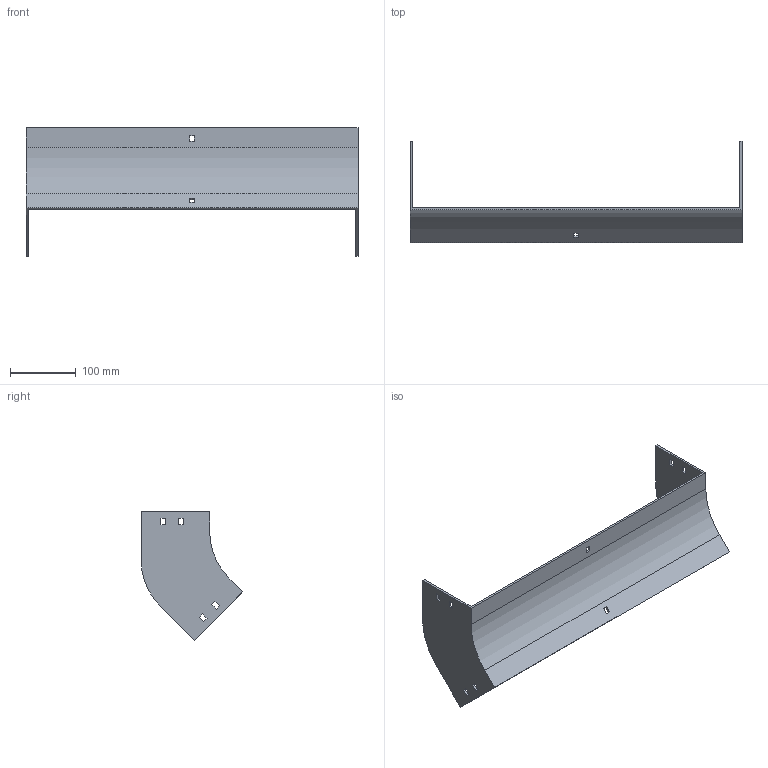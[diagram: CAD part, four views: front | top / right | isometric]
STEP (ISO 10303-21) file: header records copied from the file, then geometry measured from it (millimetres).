
FILE_DESCRIPTION (( 'STEP AP214' ), '1' );
FILE_NAME ('34F1D500.step', '2025-02-21T12:50:33', ( '' ), ( '' ), 'SwSTEP 2.0', 'SolidWorks 2023', '' );
FILE_SCHEMA (( 'AUTOMOTIVE_DESIGN' ));
Length unit declared in the file: millimetre
Products named in the file (1): 34F1D500
Bounding box: 504 x 154.5 x 195.46 mm (x, y, z)
Volume: 376361.8 mm3; surface area: 222731.1 mm2
Topology: 1 solids, 1 shells, 58 faces, 168 edges, 112 vertices
Faces by surface type: plane 54, cylinder 4
Entity records: 1943 total; most frequent: CARTESIAN_POINT 339, ORIENTED_EDGE 336, DIRECTION 294, EDGE_CURVE 168, LINE 160, VECTOR 160, VERTEX_POINT 112, EDGE_LOOP 78
